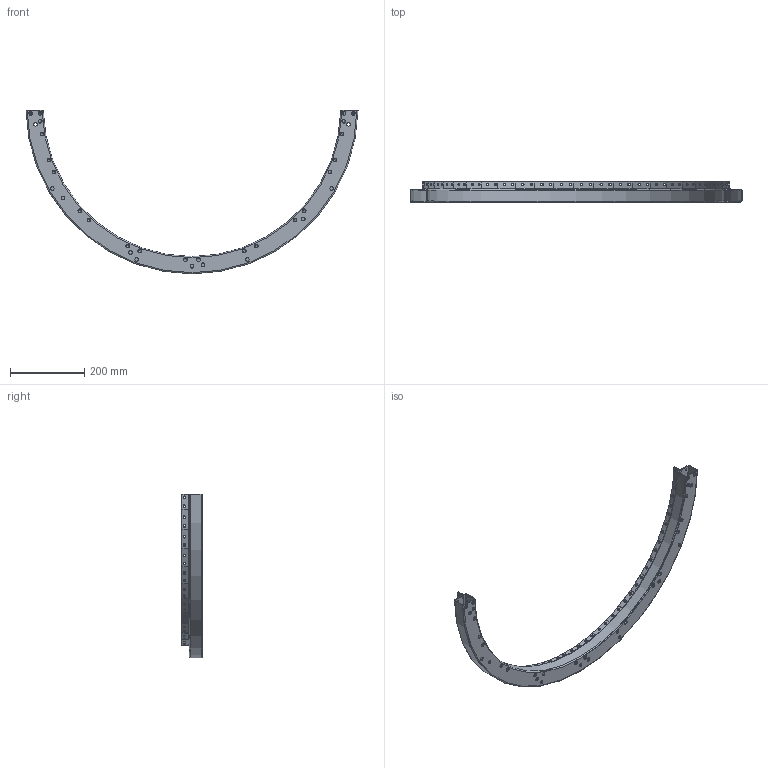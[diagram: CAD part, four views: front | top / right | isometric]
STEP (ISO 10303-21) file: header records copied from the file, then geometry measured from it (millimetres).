
FILE_DESCRIPTION(/* description */ (''),/* implementation_level */ '2;1');
FILE_NAME(/* name */ 'W6-part_25_dwg.stp',/* time_stamp */ '2015-07-06T10:16:33+02:00',/* author */ (''),/* organization */ (''),/* preprocessor_version */ 'ST-DEVELOPER v15',/* originating_system */ 'SIEMENS PLM Software NX 8.5',/* authorisation */ '');
FILE_SCHEMA (('AP203_CONFIGURATION_CONTROLLED_3D_DESIGN_OF_MECHANICAL_PARTS_AND_ASSEMBLIES_MIM_LF { 1 0 10303 403 2 1 2}'));
Length unit declared in the file: millimetre
Products named in the file (1): turc1A2C864720js
Bounding box: 896.91 x 55 x 442 mm (x, y, z)
Volume: 483913.2 mm3; surface area: 496366.3 mm2
Topology: 1 solids, 1 shells, 533 faces, 1498 edges, 965 vertices
Faces by surface type: cylinder 327, plane 106, torus 54, sphere 46
Full cylindrical faces by diameter (mm): 4.5 x4, 7 x96, 10 x35
Entity records: 16611 total; most frequent: CARTESIAN_POINT 3107, DIRECTION 2980, ORIENTED_EDGE 2456, AXIS2_PLACEMENT_3D 1238, EDGE_CURVE 1228, EDGE_LOOP 938, VERTEX_POINT 832, CIRCLE 696
